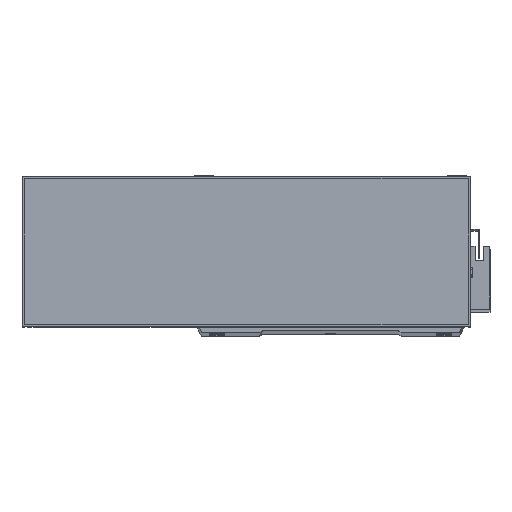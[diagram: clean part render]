
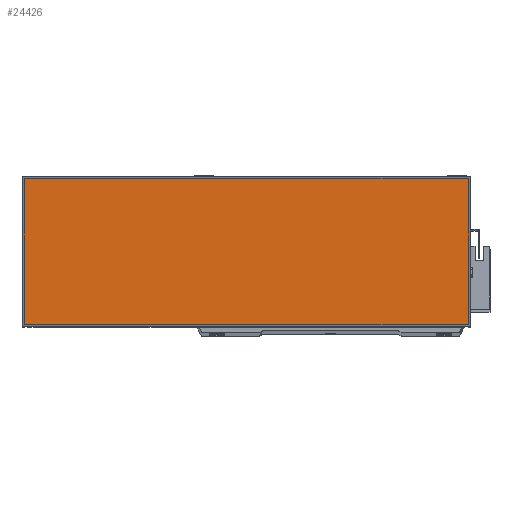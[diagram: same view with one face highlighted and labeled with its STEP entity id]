
A CAD part, top view. The second image highlights one B-rep face of the part: STEP entity #24426.
In plain terms, the highlighted planar face has unit normal (0, 0, 1).
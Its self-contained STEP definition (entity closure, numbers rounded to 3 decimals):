
#797 = DIRECTION ( 'NONE',  ( 0., -1., 0. ) ) ;
#1203 = CARTESIAN_POINT ( 'NONE',  ( 0., 93., 50. ) ) ;
#2067 = LINE ( 'NONE', #16454, #12089 ) ;
#2097 = VERTEX_POINT ( 'NONE', #24191 ) ;
#4045 = EDGE_CURVE ( 'NONE', #18074, #23423, #25927, .T. ) ;
#5011 = CARTESIAN_POINT ( 'NONE',  ( 277., 0., 50. ) ) ;
#5606 = EDGE_CURVE ( 'NONE', #16876, #2097, #11161, .T. ) ;
#5832 = PLANE ( 'NONE',  #26115 ) ;
#6908 = EDGE_CURVE ( 'NONE', #2097, #18074, #15005, .T. ) ;
#8027 = ORIENTED_EDGE ( 'NONE', *, *, #4045, .T. ) ;
#8126 = DIRECTION ( 'NONE',  ( 0., 0., -1. ) ) ;
#8653 = CARTESIAN_POINT ( 'NONE',  ( 0., 0., 50. ) ) ;
#9606 = VECTOR ( 'NONE', #27053, 1000. ) ;
#11161 = LINE ( 'NONE', #19118, #28771 ) ;
#11963 = DIRECTION ( 'NONE',  ( -1., 0., 0. ) ) ;
#12089 = VECTOR ( 'NONE', #11963, 1000. ) ;
#12815 = CARTESIAN_POINT ( 'NONE',  ( 277., 93., 50. ) ) ;
#13442 = EDGE_CURVE ( 'NONE', #23423, #16876, #2067, .T. ) ;
#13578 = ORIENTED_EDGE ( 'NONE', *, *, #13442, .T. ) ;
#13730 = VECTOR ( 'NONE', #25670, 1000. ) ;
#15005 = LINE ( 'NONE', #8653, #9606 ) ;
#16454 = CARTESIAN_POINT ( 'NONE',  ( 0., 93., 50. ) ) ;
#16876 = VERTEX_POINT ( 'NONE', #1203 ) ;
#18074 = VERTEX_POINT ( 'NONE', #25815 ) ;
#19118 = CARTESIAN_POINT ( 'NONE',  ( 0., 0., 50. ) ) ;
#20892 = ORIENTED_EDGE ( 'NONE', *, *, #6908, .T. ) ;
#22378 = ORIENTED_EDGE ( 'NONE', *, *, #5606, .T. ) ;
#23423 = VERTEX_POINT ( 'NONE', #12815 ) ;
#24171 = DIRECTION ( 'NONE',  ( -1., 0., 0. ) ) ;
#24191 = CARTESIAN_POINT ( 'NONE',  ( 0., 0., 50. ) ) ;
#24426 = ADVANCED_FACE ( 'NONE', ( #29770 ), #5832, .F. ) ;
#25670 = DIRECTION ( 'NONE',  ( 0., 1., 0. ) ) ;
#25815 = CARTESIAN_POINT ( 'NONE',  ( 277., 0., 50. ) ) ;
#25927 = LINE ( 'NONE', #5011, #13730 ) ;
#26115 = AXIS2_PLACEMENT_3D ( 'NONE', #28725, #8126, #24171 ) ;
#27053 = DIRECTION ( 'NONE',  ( 1., 0., 0. ) ) ;
#27451 = EDGE_LOOP ( 'NONE', ( #22378, #20892, #8027, #13578 ) ) ;
#28725 = CARTESIAN_POINT ( 'NONE',  ( 0., 0., 50. ) ) ;
#28771 = VECTOR ( 'NONE', #797, 1000. ) ;
#29770 = FACE_OUTER_BOUND ( 'NONE', #27451, .T. ) ;
